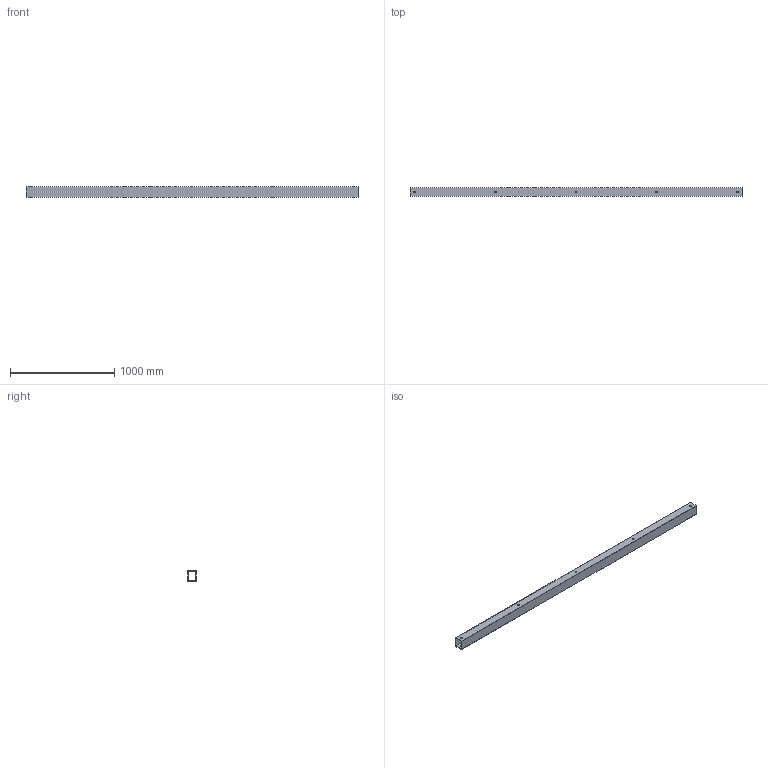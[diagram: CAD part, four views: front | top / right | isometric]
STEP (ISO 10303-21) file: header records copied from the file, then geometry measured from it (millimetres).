
FILE_DESCRIPTION(('golf model'),'2;1');
FILE_NAME('golf','',(''),(''),'golf_step_io','golf','');
FILE_SCHEMA(('AUTOMOTIVE_DESIGN { 1 0 10303 214 1 1 1 1 }'));
Length unit declared in the file: millimetre
Products named in the file (2): ASSEMBLY; floor_frame.rear_rail
Assembly tree (1 placements, depth 2):
  ASSEMBLY
    floor_frame.rear_rail
Bounding box: 3186 x 80 x 100 mm (x, y, z)
Volume: 4373757.2 mm3; surface area: 2191892.6 mm2
Topology: 1 solids, 1 shells, 20 faces, 54 edges, 36 vertices
Faces by surface type: plane 10, cylinder 10
Full cylindrical faces by diameter (mm): 18 x10
Entity records: 666 total; most frequent: DIRECTION 108, CARTESIAN_POINT 102, ORIENTED_EDGE 88, EDGE_LOOP 52, FACE_BOUND 46, EDGE_CURVE 44, AXIS2_PLACEMENT_3D 42, VERTEX_POINT 36
